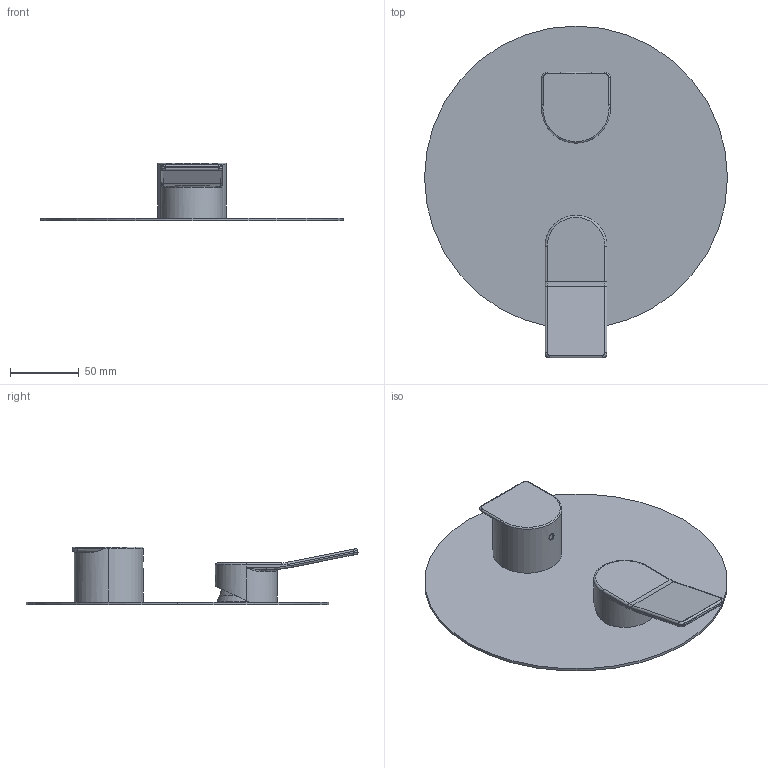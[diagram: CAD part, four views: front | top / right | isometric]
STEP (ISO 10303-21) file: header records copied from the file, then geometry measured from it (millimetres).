
FILE_DESCRIPTION (( 'STEP AP203' ), '1' );
FILE_NAME ('85226110 x architetti.STEP', '2026-06-15T15:36:22', ( '' ), ( '' ), 'SwSTEP 2.0', 'SolidWorks 2020', '' );
FILE_SCHEMA (( 'CONFIG_CONTROL_DESIGN' ));
Length unit declared in the file: millimetre
Products named in the file (1): 85226110 x architetti
Bounding box: 220 x 241.06 x 42 mm (x, y, z)
Volume: 170873.3 mm3; surface area: 112139.9 mm2
Topology: 1 solids, 2 shells, 118 faces, 269 edges, 162 vertices
Faces by surface type: cylinder 57, plane 25, bspline 16, torus 7, cone 7, sphere 6
Entity records: 4453 total; most frequent: CARTESIAN_POINT 1818, DIRECTION 541, ORIENTED_EDGE 534, EDGE_CURVE 267, AXIS2_PLACEMENT_3D 227, VERTEX_POINT 162, EDGE_LOOP 129, CIRCLE 124
